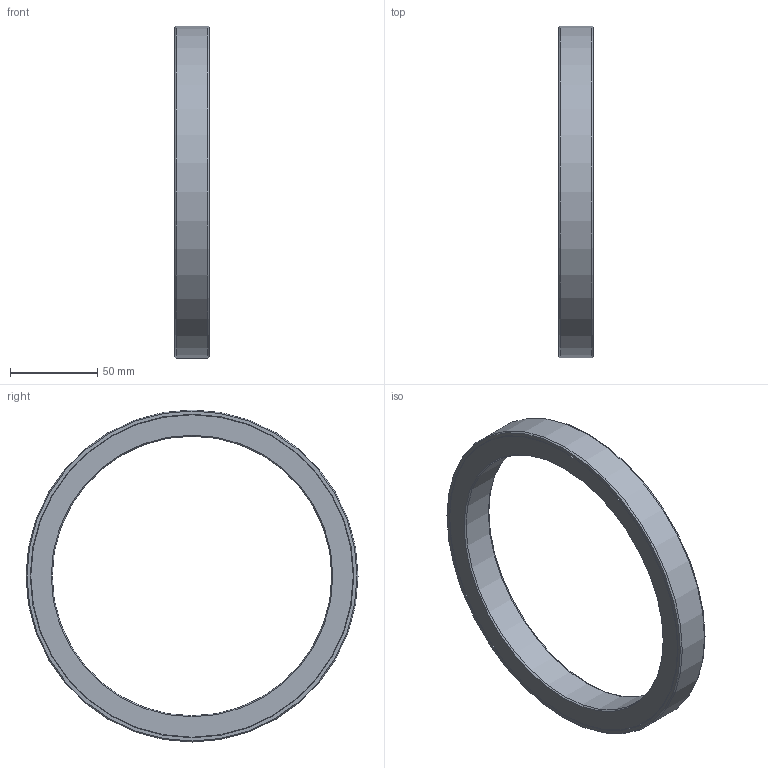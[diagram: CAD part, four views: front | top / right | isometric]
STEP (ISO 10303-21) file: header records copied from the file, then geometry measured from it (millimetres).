
FILE_DESCRIPTION(/* description */ (''),/* implementation_level */ '2;1');
FILE_NAME(/* name */ '301306 L 160x190x20.stp',/* time_stamp */ '2016-12-15T10:28:13+01:00',/* author */ (''),/* organization */ (''),/* preprocessor_version */ 'ST-DEVELOPER v15',/* originating_system */ 'SIEMENS PLM Software NX 8.5',/* authorisation */ '');
FILE_SCHEMA (('CONFIG_CONTROL_DESIGN'));
Length unit declared in the file: millimetre
Products named in the file (1): ATE0000122_01
Bounding box: 20 x 190 x 190 mm (x, y, z)
Volume: 160713.4 mm3; surface area: 61087 mm2
Topology: 2 solids, 2 shells, 18 faces, 34 edges, 20 vertices
Faces by surface type: cone 12, plane 4, cylinder 2
Full cylindrical faces by diameter (mm): 160 x1, 190 x1
Entity records: 454 total; most frequent: DIRECTION 74, CARTESIAN_POINT 55, AXIS2_PLACEMENT_3D 37, FACE_BOUND 36, EDGE_LOOP 36, ORIENTED_EDGE 36, ADVANCED_FACE 18, VERTEX_POINT 18
